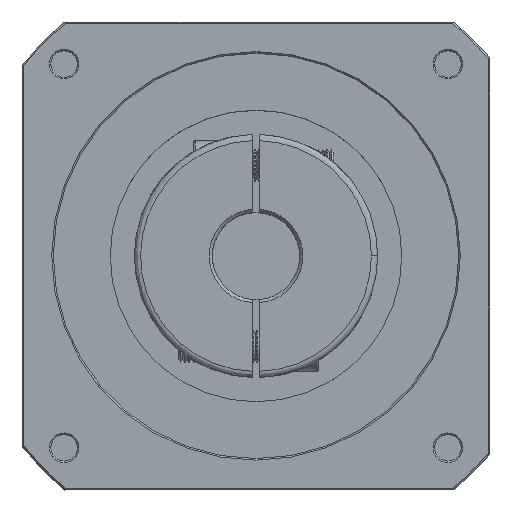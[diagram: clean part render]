
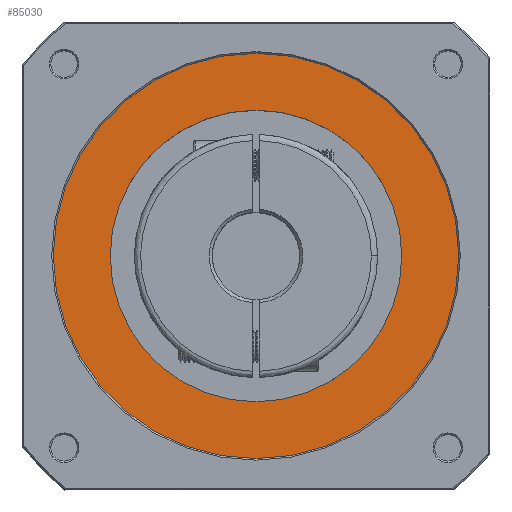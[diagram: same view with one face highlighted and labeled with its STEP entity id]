
A CAD part, top view. The second image highlights one B-rep face of the part: STEP entity #85030.
In plain terms, the highlighted planar face has unit normal (0, 0, -1).
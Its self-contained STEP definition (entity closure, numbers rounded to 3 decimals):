
#957 = CARTESIAN_POINT ( 'NONE',  ( 0., 0., 221.5 ) ) ;
#1916 = EDGE_LOOP ( 'NONE', ( #50465, #47014 ) ) ;
#2467 = DIRECTION ( 'NONE',  ( 1., 0., 0. ) ) ;
#6169 = EDGE_CURVE ( 'NONE', #75149, #12374, #81920, .T. ) ;
#6511 = DIRECTION ( 'NONE',  ( 1., 0., 0. ) ) ;
#6900 = VERTEX_POINT ( 'NONE', #84053 ) ;
#7074 = VERTEX_POINT ( 'NONE', #80368 ) ;
#7944 = DIRECTION ( 'NONE',  ( 1., 0., 0. ) ) ;
#8829 = EDGE_LOOP ( 'NONE', ( #10419, #61112 ) ) ;
#10291 = FACE_BOUND ( 'NONE', #1916, .T. ) ;
#10419 = ORIENTED_EDGE ( 'NONE', *, *, #67286, .T. ) ;
#10577 = AXIS2_PLACEMENT_3D ( 'NONE', #89648, #48007, #6511 ) ;
#12374 = VERTEX_POINT ( 'NONE', #21305 ) ;
#14008 = CARTESIAN_POINT ( 'NONE',  ( 0., 0., 221.5 ) ) ;
#20960 = DIRECTION ( 'NONE',  ( -1., 0., 0. ) ) ;
#21305 = CARTESIAN_POINT ( 'NONE',  ( 46.75, 0., 221.5 ) ) ;
#22454 = AXIS2_PLACEMENT_3D ( 'NONE', #76792, #35201, #83772 ) ;
#24314 = EDGE_CURVE ( 'NONE', #12374, #75149, #66174, .T. ) ;
#30143 = CARTESIAN_POINT ( 'NONE',  ( -46.75, 0., 221.5 ) ) ;
#32200 = AXIS2_PLACEMENT_3D ( 'NONE', #85627, #44000, #2467 ) ;
#35201 = DIRECTION ( 'NONE',  ( 0., 0., 1. ) ) ;
#44000 = DIRECTION ( 'NONE',  ( 0., 0., 1. ) ) ;
#44984 = CIRCLE ( 'NONE', #47309, 65. ) ;
#47014 = ORIENTED_EDGE ( 'NONE', *, *, #24314, .T. ) ;
#47309 = AXIS2_PLACEMENT_3D ( 'NONE', #957, #49445, #7944 ) ;
#48007 = DIRECTION ( 'NONE',  ( 0., 0., -1. ) ) ;
#49445 = DIRECTION ( 'NONE',  ( 0., 0., -1. ) ) ;
#50465 = ORIENTED_EDGE ( 'NONE', *, *, #6169, .T. ) ;
#61112 = ORIENTED_EDGE ( 'NONE', *, *, #82446, .T. ) ;
#62498 = DIRECTION ( 'NONE',  ( 0., 0., 1. ) ) ;
#66174 = CIRCLE ( 'NONE', #22454, 46.75 ) ;
#67286 = EDGE_CURVE ( 'NONE', #6900, #7074, #44984, .T. ) ;
#71019 = PLANE ( 'NONE',  #32200 ) ;
#74879 = AXIS2_PLACEMENT_3D ( 'NONE', #14008, #62498, #20960 ) ;
#75149 = VERTEX_POINT ( 'NONE', #30143 ) ;
#76792 = CARTESIAN_POINT ( 'NONE',  ( 0., 0., 221.5 ) ) ;
#79738 = FACE_OUTER_BOUND ( 'NONE', #8829, .T. ) ;
#80368 = CARTESIAN_POINT ( 'NONE',  ( -65., 0., 221.5 ) ) ;
#81920 = CIRCLE ( 'NONE', #74879, 46.75 ) ;
#82446 = EDGE_CURVE ( 'NONE', #7074, #6900, #87758, .T. ) ;
#83772 = DIRECTION ( 'NONE',  ( -1., 0., 0. ) ) ;
#84053 = CARTESIAN_POINT ( 'NONE',  ( 65., 0., 221.5 ) ) ;
#85030 = ADVANCED_FACE ( 'NONE', ( #10291, #79738 ), #71019, .F. ) ;
#85627 = CARTESIAN_POINT ( 'NONE',  ( -65.78, -65.78, 221.5 ) ) ;
#87758 = CIRCLE ( 'NONE', #10577, 65. ) ;
#89648 = CARTESIAN_POINT ( 'NONE',  ( 0., 0., 221.5 ) ) ;
